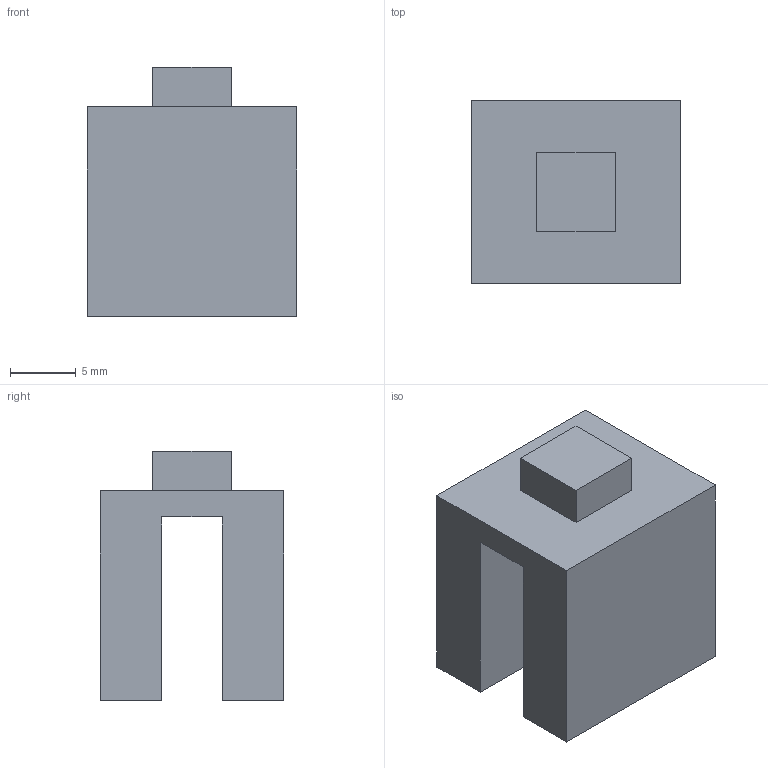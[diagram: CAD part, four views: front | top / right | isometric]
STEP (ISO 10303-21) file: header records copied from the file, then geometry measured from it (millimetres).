
FILE_DESCRIPTION(('Open CASCADE Model'),'2;1');
FILE_NAME('Open CASCADE Shape Model','2026-10-02T13:48:49',('Author'),( 'Open CASCADE'),'Open CASCADE STEP processor 7.8','Open CASCADE 7.8' ,'Unknown');
FILE_SCHEMA(('AUTOMOTIVE_DESIGN { 1 0 10303 214 1 1 1 1 }'));
Length unit declared in the file: millimetre
Products named in the file (1): Open CASCADE STEP translator 7.8 7
Bounding box: 16 x 14 x 19 mm (x, y, z)
Volume: 2661.6 mm3; surface area: 1799.2 mm2
Topology: 1 solids, 1 shells, 15 faces, 36 edges, 24 vertices
Faces by surface type: plane 15
Entity records: 908 total; most frequent: CARTESIAN_POINT 148, DIRECTION 140, LINE 108, VECTOR 108, ORIENTED_EDGE 72, PCURVE 72, DEFINITIONAL_REPRESENTATION 72, EDGE_CURVE 36
